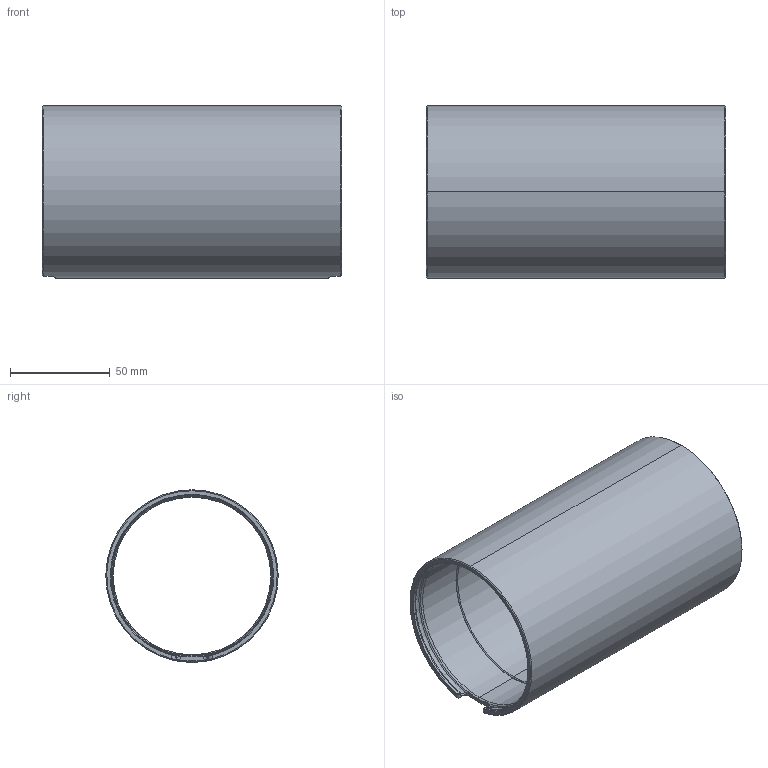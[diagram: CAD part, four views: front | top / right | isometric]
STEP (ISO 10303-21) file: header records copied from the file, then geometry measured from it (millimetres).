
FILE_DESCRIPTION (( 'STEP AP203' ), '1' );
FILE_NAME ('BR-106278-150_RevA.step', '2026-01-13T23:23:57', ( '' ), ( '' ), 'SwSTEP 2.0', 'SolidWorks 2024', '' );
FILE_SCHEMA (( 'CONFIG_CONTROL_DESIGN' ));
Length unit declared in the file: millimetre
Products named in the file (1): BR-106278-150
Bounding box: 150 x 86.48 x 86.5 mm (x, y, z)
Volume: 133794.8 mm3; surface area: 79602.6 mm2
Topology: 1 solids, 1 shells, 86 faces, 224 edges, 140 vertices
Faces by surface type: bspline 24, cylinder 22, cone 14, plane 14, torus 12
Entity records: 5752 total; most frequent: CARTESIAN_POINT 3834, ORIENTED_EDGE 448, DIRECTION 294, EDGE_CURVE 224, VERTEX_POINT 140, AXIS2_PLACEMENT_3D 127, B_SPLINE_CURVE_WITH_KNOTS 116, EDGE_LOOP 88
